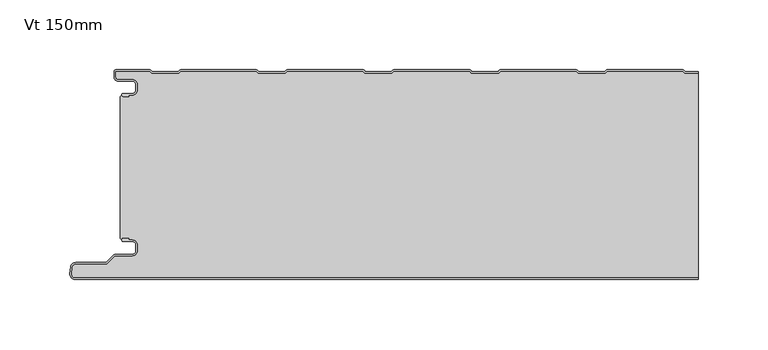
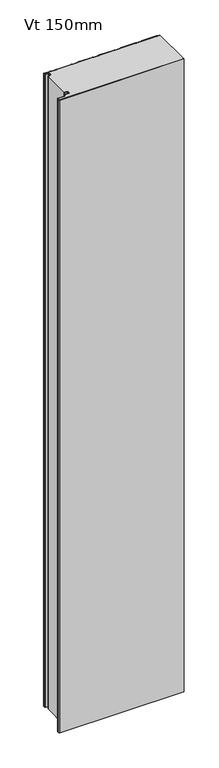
"""IFC4 building model written with IfcOpenShell, lengths in millimetres: plate geometry, KIP-MEX-KSS-1067-R19-CP-Vt-OP_SL : Vt 150mm."""

from ifc_helpers import new_model, si_unit, point, frame, frame_2d, origin, origin_with_axes, place, context, project, spatial, polyline, circle_curve, trimmed, segment, composite_curve, outline, extrude, source, transform, mapped, element, save
from ifc_brep_helpers import plane_surface, cylinder_surface, revolved_surface, advanced_brep


def vt_150mm_fdf00c52(model_context):
    return source(origin(), model_context, "Body", "SolidModel", [
        advanced_brep(
        [(-204.468691, -17.0015159, 2400.0), (-205.4686883, -18.0015191, 2400.0), (-204.468691, -19.0015105, 2400.0), (-200.4684874, -19.0015105, 2400.0), (-200.4684874, -18.0015159, 2400.0), (-197.7762776, -18.0015159, 2400.0), (-194.4762819, -14.7015202, 2400.0), (-194.4762819, -10.301529, 2400.0), (-197.7762774, -7.0015335, 2400.0), (-208.1962563, -7.0015335, 2400.0), (-209.9662505, -5.2315393, 2400.0), (-209.9662505, -0.9999916, 2400.0), (-185.4659738, -0.9999916, 2400.0), (-184.0803312, -2.2002307, 2400.0), (-164.7051649, -2.2002307, 2400.0), (-163.319532, -1.0, 2400.0), (-109.2661166, -1.0, 2400.0), (-107.8804836, -2.2002307, 2400.0), (-88.5053173, -2.2002307, 2400.0), (-87.1196844, -1.0, 2400.0), (-33.066269, -1.0, 2400.0), (-31.680636, -2.2002307, 2400.0), (-12.3054697, -2.2002307, 2400.0), (-10.9198368, -1.0, 2400.0), (43.1335786, -1.0, 2400.0), (44.5192116, -2.2002307, 2400.0), (63.8943779, -2.2002307, 2400.0), (65.2800108, -1.0, 2400.0), (119.3334262, -1.0, 2400.0), (120.7190592, -2.2002307, 2400.0), (140.0942255, -2.2002307, 2400.0), (141.4798584, -1.0, 2400.0), (195.5332738, -1.0, 2400.0), (196.9189068, -2.2002307, 2400.0), (206.4999998, -2.2002307, 2400.0), (206.4999998, -1.2002307, 2400.0), (197.2917872, -1.2002307, 2400.0), (196.3007396, -0.3417885, 2400.0), (195.3841227, 0.0, 2400.0), (141.6290096, 0.0, 2400.0), (140.7123927, -0.3417885, 2400.0), (139.7213451, -1.2002307, 2400.0), (121.0919396, -1.2002307, 2400.0), (120.100892, -0.3417885, 2400.0), (119.1842751, 0.0, 2400.0), (65.429162, 0.0, 2400.0), (64.5125451, -0.3417885, 2400.0), (63.5214975, -1.2002307, 2400.0), (44.892092, -1.2002307, 2400.0), (43.9010444, -0.3417885, 2400.0), (42.9844275, 0.0, 2400.0), (-10.7706856, 0.0, 2400.0), (-11.6873025, -0.3417885, 2400.0), (-12.6783501, -1.2002307, 2400.0), (-31.3077556, -1.2002307, 2400.0), (-32.2988032, -0.3417885, 2400.0), (-33.2154201, 0.0, 2400.0), (-86.9705332, 0.0, 2400.0), (-87.8871501, -0.3417885, 2400.0), (-88.8781977, -1.2002307, 2400.0), (-107.5076032, -1.2002307, 2400.0), (-108.4986508, -0.3417885, 2400.0), (-109.4152677, 0.0, 2400.0), (-163.1703808, 0.0, 2400.0), (-164.0869977, -0.3417885, 2400.0), (-165.0780453, -1.2002307, 2400.0), (-183.7074508, -1.2002307, 2400.0), (-184.6984984, -0.3417885, 2400.0), (-185.6152067, 0.0, 2400.0), (-209.5662543, 8.4e-06, 2400.0), (-210.9662505, -1.3999878, 2400.0), (-210.9662505, -5.2315393, 2400.0), (-208.1962563, -8.0015335, 2400.0), (-197.7762774, -8.0015335, 2400.0), (-195.4762819, -10.301529, 2400.0), (-195.4762819, -14.7015202, 2400.0), (-197.7762776, -17.0015159, 2400.0), (-204.468691, -17.0015159, 0.0), (-197.7762776, -17.0015159, 0.0), (-195.4762819, -14.7015202, 0.0), (-195.4762819, -10.301529, 0.0), (-197.7762774, -8.0015335, 0.0), (-208.1962563, -8.0015335, 0.0), (-210.9662505, -5.2315393, 0.0), (-210.9662505, -1.3999878, 0.0), (-209.5662543, 8.4e-06, 0.0), (-185.6151153, 8.4e-06, 0.0), (-184.6984984, -0.3417885, 0.0), (-183.7074508, -1.2002307, 0.0), (-165.0780453, -1.2002307, 0.0), (-164.0869977, -0.3417885, 0.0), (-163.1703808, 0.0, 0.0), (-109.4152677, 0.0, 0.0), (-108.4986508, -0.3417885, 0.0), (-107.5076032, -1.2002307, 0.0), (-88.8781977, -1.2002307, 0.0), (-87.8871501, -0.3417885, 0.0), (-86.9705332, 0.0, 0.0), (-33.2154201, 0.0, 0.0), (-32.2988032, -0.3417885, 0.0), (-31.3077556, -1.2002307, 0.0), (-12.6783501, -1.2002307, 0.0), (-11.6873025, -0.3417885, 0.0), (-10.7706856, 0.0, 0.0), (42.9844275, 0.0, 0.0), (43.9010444, -0.3417885, 0.0), (44.892092, -1.2002307, 0.0), (63.5214975, -1.2002307, 0.0), (64.5125451, -0.3417885, 0.0), (65.429162, 0.0, 0.0), (119.1842751, 0.0, 0.0), (120.100892, -0.3417885, 0.0), (121.0919396, -1.2002307, 0.0), (139.7213451, -1.2002307, 0.0), (140.7123927, -0.3417885, 0.0), (141.6290096, 0.0, 0.0), (195.3841227, 0.0, 0.0), (196.3007396, -0.3417885, 0.0), (197.2917872, -1.2002307, 0.0), (206.4999998, -1.2002307, 0.0), (206.4999998, -2.2002307, 0.0), (196.9189068, -2.2002307, 0.0), (195.5332738, -1.0, 0.0), (141.4798584, -1.0, 0.0), (140.0942255, -2.2002307, 0.0), (120.7190592, -2.2002307, 0.0), (119.3334262, -1.0, 0.0), (65.2800108, -1.0, 0.0), (63.8943779, -2.2002307, 0.0), (44.5192116, -2.2002307, 0.0), (43.1335786, -1.0, 0.0), (-10.9198368, -1.0, 0.0), (-12.3054697, -2.2002307, 0.0), (-31.680636, -2.2002307, 0.0), (-33.066269, -1.0, 0.0), (-87.1196844, -1.0, 0.0), (-88.5053173, -2.2002307, 0.0), (-107.8804836, -2.2002307, 0.0), (-109.2661166, -1.0, 0.0), (-163.319532, -1.0, 0.0), (-164.7051649, -2.2002307, 0.0), (-184.0803312, -2.2002307, 0.0), (-185.4659738, -0.9999916, 0.0), (-209.9662505, -0.9999916, 0.0), (-209.9662505, -5.2315393, 0.0), (-208.1962563, -7.0015335, 0.0), (-197.7762774, -7.0015335, 0.0), (-194.4762819, -10.301529, 0.0), (-194.4762819, -14.7015202, 0.0), (-197.7762776, -18.0015159, 0.0), (-200.4684874, -18.0015159, 0.0), (-200.4684874, -19.0015105, 0.0), (-204.468691, -19.0015105, 0.0), (-205.4686882, -18.0015192, 0.0)],
        [
            (0, 1, circle_curve(frame((-204.468691, -18.0015132, 2400.0), z_axis=(0.0, 0.0, 1.0), x_axis=(1.0, 0.0, 0.0)), 0.9999973)),
            (1, 2, circle_curve(frame((-204.468691, -18.0015133, 2400.0), z_axis=(0.0, 0.0, 1.0), x_axis=(1.0, 0.0, 0.0)), 0.9999972)),
            (2, 3),
            (3, 4),
            (4, 5),
            (5, 6, circle_curve(frame((-197.7762776, -14.7015202, 2400.0), z_axis=(0.0, 0.0, 1.0), x_axis=(1.0, 0.0, 0.0)), 3.2999957)),
            (6, 7),
            (7, 8, circle_curve(frame((-197.7762774, -10.301529, 2400.0), z_axis=(0.0, 0.0, 1.0), x_axis=(1.0, 0.0, 0.0)), 3.2999955)),
            (8, 9),
            (9, 10, circle_curve(frame((-208.1962563, -5.2315393, 2400.0), z_axis=(0.0, 0.0, -1.0), x_axis=(1.0, 0.0, 0.0)), 1.7699942)),
            (10, 11),
            (11, 12),
            (12, 13),
            (13, 14),
            (14, 15),
            (15, 16),
            (16, 17),
            (17, 18),
            (18, 19),
            (19, 20),
            (20, 21),
            (21, 22),
            (22, 23),
            (23, 24),
            (24, 25),
            (25, 26),
            (26, 27),
            (27, 28),
            (28, 29),
            (29, 30),
            (30, 31),
            (31, 32),
            (32, 33),
            (33, 34),
            (34, 35),
            (35, 36),
            (36, 37),
            (37, 38, circle_curve(frame((195.3841227, -1.3999972, 2400.0), z_axis=(0.0, 0.0, 1.0), x_axis=(1.0, 0.0, 0.0)), 1.3999972)),
            (38, 39),
            (39, 40, circle_curve(frame((141.6290096, -1.3999972, 2400.0), z_axis=(0.0, 0.0, 1.0), x_axis=(1.0, 0.0, 0.0)), 1.3999972)),
            (40, 41),
            (41, 42),
            (42, 43),
            (43, 44, circle_curve(frame((119.1842751, -1.3999972, 2400.0), z_axis=(0.0, 0.0, 1.0), x_axis=(1.0, 0.0, 0.0)), 1.3999972)),
            (44, 45),
            (45, 46, circle_curve(frame((65.429162, -1.3999972, 2400.0), z_axis=(0.0, 0.0, 1.0), x_axis=(1.0, 0.0, 0.0)), 1.3999972)),
            (46, 47),
            (47, 48),
            (48, 49),
            (49, 50, circle_curve(frame((42.9844275, -1.3999972, 2400.0), z_axis=(0.0, 0.0, 1.0), x_axis=(1.0, 0.0, 0.0)), 1.3999972)),
            (50, 51),
            (51, 52, circle_curve(frame((-10.7706856, -1.3999972, 2400.0), z_axis=(0.0, 0.0, 1.0), x_axis=(1.0, 0.0, 0.0)), 1.3999972)),
            (52, 53),
            (53, 54),
            (54, 55),
            (55, 56, circle_curve(frame((-33.2154201, -1.3999972, 2400.0), z_axis=(0.0, 0.0, 1.0), x_axis=(1.0, 0.0, 0.0)), 1.3999972)),
            (56, 57),
            (57, 58, circle_curve(frame((-86.9705332, -1.3999972, 2400.0), z_axis=(0.0, 0.0, 1.0), x_axis=(1.0, 0.0, 0.0)), 1.3999972)),
            (58, 59),
            (59, 60),
            (60, 61),
            (61, 62, circle_curve(frame((-109.4152677, -1.3999972, 2400.0), z_axis=(0.0, 0.0, 1.0), x_axis=(1.0, 0.0, 0.0)), 1.3999972)),
            (62, 63),
            (63, 64, circle_curve(frame((-163.1703808, -1.3999972, 2400.0), z_axis=(0.0, 0.0, 1.0), x_axis=(1.0, 0.0, 0.0)), 1.3999972)),
            (64, 65),
            (65, 66),
            (66, 67),
            (67, 68, circle_curve(frame((-185.6151153, -1.3999972, 2400.0), z_axis=(0.0, 0.0, 1.0), x_axis=(1.0, 0.0, 0.0)), 1.3999972)),
            (68, 69),
            (69, 70, circle_curve(frame((-209.5662543, -1.3999878, 2400.0), z_axis=(0.0, 0.0, 1.0), x_axis=(1.0, 0.0, 0.0)), 1.3999962)),
            (70, 71),
            (71, 72, circle_curve(frame((-208.1962563, -5.2315393, 2400.0), z_axis=(0.0, 0.0, 1.0), x_axis=(1.0, 0.0, 0.0)), 2.7699942)),
            (72, 73),
            (73, 74, circle_curve(frame((-197.7762774, -10.301529, 2400.0), z_axis=(0.0, 0.0, -1.0), x_axis=(1.0, 0.0, 0.0)), 2.2999955)),
            (74, 75),
            (75, 76, circle_curve(frame((-197.7762776, -14.7015202, 2400.0), z_axis=(0.0, 0.0, -1.0), x_axis=(1.0, 0.0, 0.0)), 2.2999957)),
            (76, 0),
            (77, 78),
            (78, 79, circle_curve(frame((-197.7762776, -14.7015202, 0.0), z_axis=(0.0, 0.0, 1.0), x_axis=(1.0, 0.0, 0.0)), 2.2999957)),
            (79, 80),
            (80, 81, circle_curve(frame((-197.7762774, -10.301529, 0.0), z_axis=(0.0, 0.0, 1.0), x_axis=(1.0, 0.0, 0.0)), 2.2999955)),
            (81, 82),
            (82, 83, circle_curve(frame((-208.1962563, -5.2315393, 0.0), z_axis=(0.0, 0.0, -1.0), x_axis=(1.0, 0.0, 0.0)), 2.7699942)),
            (83, 84),
            (84, 85, circle_curve(frame((-209.5662543, -1.3999878, 0.0), z_axis=(0.0, 0.0, -1.0), x_axis=(1.0, 0.0, 0.0)), 1.3999962)),
            (85, 86),
            (86, 87, circle_curve(frame((-185.6151153, -1.3999972, 0.0), z_axis=(0.0, 0.0, -1.0), x_axis=(1.0, 0.0, 0.0)), 1.3999972)),
            (87, 88),
            (88, 89),
            (89, 90),
            (90, 91, circle_curve(frame((-163.1703808, -1.3999972, 0.0), z_axis=(0.0, 0.0, -1.0), x_axis=(1.0, 0.0, 0.0)), 1.3999972)),
            (91, 92),
            (92, 93, circle_curve(frame((-109.4152677, -1.3999972, 0.0), z_axis=(0.0, 0.0, -1.0), x_axis=(1.0, 0.0, 0.0)), 1.3999972)),
            (93, 94),
            (94, 95),
            (95, 96),
            (96, 97, circle_curve(frame((-86.9705332, -1.3999972, 0.0), z_axis=(0.0, 0.0, -1.0), x_axis=(1.0, 0.0, 0.0)), 1.3999972)),
            (97, 98),
            (98, 99, circle_curve(frame((-33.2154201, -1.3999972, 0.0), z_axis=(0.0, 0.0, -1.0), x_axis=(1.0, 0.0, 0.0)), 1.3999972)),
            (99, 100),
            (100, 101),
            (101, 102),
            (102, 103, circle_curve(frame((-10.7706856, -1.3999972, 0.0), z_axis=(0.0, 0.0, -1.0), x_axis=(1.0, 0.0, 0.0)), 1.3999972)),
            (103, 104),
            (104, 105, circle_curve(frame((42.9844275, -1.3999972, 0.0), z_axis=(0.0, 0.0, -1.0), x_axis=(1.0, 0.0, 0.0)), 1.3999972)),
            (105, 106),
            (106, 107),
            (107, 108),
            (108, 109, circle_curve(frame((65.429162, -1.3999972, 0.0), z_axis=(0.0, 0.0, -1.0), x_axis=(1.0, 0.0, 0.0)), 1.3999972)),
            (109, 110),
            (110, 111, circle_curve(frame((119.1842751, -1.3999972, 0.0), z_axis=(0.0, 0.0, -1.0), x_axis=(1.0, 0.0, 0.0)), 1.3999972)),
            (111, 112),
            (112, 113),
            (113, 114),
            (114, 115, circle_curve(frame((141.6290096, -1.3999972, 0.0), z_axis=(0.0, 0.0, -1.0), x_axis=(1.0, 0.0, 0.0)), 1.3999972)),
            (115, 116),
            (116, 117, circle_curve(frame((195.3841227, -1.3999972, 0.0), z_axis=(0.0, 0.0, -1.0), x_axis=(1.0, 0.0, 0.0)), 1.3999972)),
            (117, 118),
            (118, 119),
            (119, 120),
            (120, 121),
            (121, 122),
            (122, 123),
            (123, 124),
            (124, 125),
            (125, 126),
            (126, 127),
            (127, 128),
            (128, 129),
            (129, 130),
            (130, 131),
            (131, 132),
            (132, 133),
            (133, 134),
            (134, 135),
            (135, 136),
            (136, 137),
            (137, 138),
            (138, 139),
            (139, 140),
            (140, 141),
            (141, 142),
            (142, 143),
            (143, 144),
            (144, 145, circle_curve(frame((-208.1962563, -5.2315393, 0.0), z_axis=(0.0, 0.0, 1.0), x_axis=(1.0, 0.0, 0.0)), 1.7699942)),
            (145, 146),
            (146, 147, circle_curve(frame((-197.7762774, -10.301529, 0.0), z_axis=(0.0, 0.0, -1.0), x_axis=(1.0, 0.0, 0.0)), 3.2999955)),
            (147, 148),
            (148, 149, circle_curve(frame((-197.7762776, -14.7015202, 0.0), z_axis=(0.0, 0.0, -1.0), x_axis=(1.0, 0.0, 0.0)), 3.2999957)),
            (149, 150),
            (150, 151),
            (151, 152),
            (152, 153, circle_curve(frame((-204.468691, -18.0015133, 0.0), z_axis=(0.0, 0.0, -1.0), x_axis=(1.0, 0.0, 0.0)), 0.9999972)),
            (153, 77, circle_curve(frame((-204.468691, -18.0015132, 0.0), z_axis=(0.0, 0.0, -1.0), x_axis=(1.0, 0.0, 0.0)), 0.9999973)),
            (76, 78),
            (77, 0),
            (75, 79),
            (74, 80),
            (73, 81),
            (72, 82),
            (71, 83),
            (70, 84),
            (69, 85),
            (68, 86),
            (67, 87),
            (66, 88),
            (65, 89),
            (64, 90),
            (63, 91),
            (62, 92),
            (61, 93),
            (60, 94),
            (59, 95),
            (58, 96),
            (57, 97),
            (56, 98),
            (55, 99),
            (54, 100),
            (53, 101),
            (52, 102),
            (51, 103),
            (50, 104),
            (49, 105),
            (48, 106),
            (47, 107),
            (46, 108),
            (45, 109),
            (44, 110),
            (43, 111),
            (42, 112),
            (41, 113),
            (40, 114),
            (39, 115),
            (38, 116),
            (37, 117),
            (36, 118),
            (35, 119),
            (120, 34),
            (33, 121),
            (32, 122),
            (31, 123),
            (30, 124),
            (29, 125),
            (28, 126),
            (27, 127),
            (26, 128),
            (25, 129),
            (24, 130),
            (23, 131),
            (22, 132),
            (21, 133),
            (20, 134),
            (19, 135),
            (18, 136),
            (17, 137),
            (16, 138),
            (15, 139),
            (14, 140),
            (13, 141),
            (12, 142),
            (11, 143),
            (10, 144),
            (9, 145),
            (8, 146),
            (7, 147),
            (6, 148),
            (5, 149),
            (4, 150),
            (3, 151),
            (2, 152),
            (1, 153),
        ],
        [
            plane_surface(frame((326.9000002, 0.0, 2400.0), z_axis=(0.0, 0.0, 1.0), x_axis=(0.0, 1.0, 0.0))),
            plane_surface(frame((326.9000002, 0.0, 0.0), z_axis=(0.0, 0.0, -1.0), x_axis=(0.0, 1.0, 0.0))),
            plane_surface(frame((-204.468691, -17.0015159, 2400.0), z_axis=(0.0, 1.0, 0.0), x_axis=(0.0, 0.0, -1.0))),
            revolved_surface(polyline([(-195.47628189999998, -14.7015202, 0.0), (-195.47628189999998, -14.7015202, 2400.0)]), (-197.7762776, -14.7015202, 2400.0), (0.0, 0.0, -1.0)),
            plane_surface(frame((-195.4762819, -14.7015202, 2400.0), z_axis=(-1.0, 0.0, 0.0), x_axis=(0.0, 0.0, -1.0))),
            revolved_surface(polyline([(-195.4762819, -10.301529, 0.0), (-195.4762819, -10.301529, 2400.0)]), (-197.7762774, -10.301529, 2400.0), (0.0, 0.0, -1.0)),
            plane_surface(frame((-197.7762774, -8.0015335, 2400.0), z_axis=(0.0, -1.0, 0.0), x_axis=(0.0, 0.0, -1.0))),
            cylinder_surface(frame((-208.1962563, -5.2315393, 2400.0), z_axis=(0.0, 0.0, 1.0), x_axis=(1.0, 0.0, 0.0)), 2.7699942),
            plane_surface(frame((-210.9662505, -5.2315393, 2400.0), z_axis=(-1.0, 0.0, 0.0), x_axis=(0.0, 0.0, -1.0))),
            cylinder_surface(frame((-209.5662543, -1.3999878, 2400.0), z_axis=(0.0, 0.0, 1.0), x_axis=(1.0, 0.0, 0.0)), 1.3999962),
            plane_surface(frame((-209.5662543, 8.4e-06, 2400.0), z_axis=(0.0, 1.0, 0.0), x_axis=(0.0, 0.0, -1.0))),
            cylinder_surface(frame((-185.6151153, -1.3999972, 2400.0), z_axis=(0.0, 0.0, 1.0), x_axis=(1.0, 0.0, 0.0)), 1.3999972),
            plane_surface(frame((-184.6984984, -0.3417885, 2400.0), z_axis=(0.6547276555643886, 0.755864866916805, 0.0), x_axis=(0.0, 0.0, -1.0))),
            plane_surface(frame((-174.3927481, -1.2002307, 2400.0), z_axis=(0.0, 1.0, 0.0), x_axis=(0.0, 0.0, -1.0))),
            plane_surface(frame((-165.0780453, -1.2002307, 2400.0), z_axis=(-0.6547276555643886, 0.755864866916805, 0.0), x_axis=(0.0, 0.0, -1.0))),
            cylinder_surface(frame((-163.1703808, -1.3999972, 2400.0), z_axis=(0.0, 0.0, 1.0), x_axis=(1.0, 0.0, 0.0)), 1.3999972),
            plane_surface(frame((-163.1703808, 0.0, 2400.0), z_axis=(0.0, 1.0, 0.0), x_axis=(0.0, 0.0, -1.0))),
            cylinder_surface(frame((-109.4152677, -1.3999972, 2400.0), z_axis=(0.0, 0.0, 1.0), x_axis=(1.0, 0.0, 0.0)), 1.3999972),
            plane_surface(frame((-108.4986508, -0.3417885, 2400.0), z_axis=(0.6547276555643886, 0.755864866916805, 0.0), x_axis=(0.0, 0.0, -1.0))),
            plane_surface(frame((-98.1929005, -1.2002307, 2400.0), z_axis=(0.0, 1.0, 0.0), x_axis=(0.0, 0.0, -1.0))),
            plane_surface(frame((-88.8781977, -1.2002307, 2400.0), z_axis=(-0.6547276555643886, 0.755864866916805, 0.0), x_axis=(0.0, 0.0, -1.0))),
            cylinder_surface(frame((-86.9705332, -1.3999972, 2400.0), z_axis=(0.0, 0.0, 1.0), x_axis=(1.0, 0.0, 0.0)), 1.3999972),
            plane_surface(frame((-86.9705332, 0.0, 2400.0), z_axis=(0.0, 1.0, 0.0), x_axis=(0.0, 0.0, -1.0))),
            cylinder_surface(frame((-33.2154201, -1.3999972, 2400.0), z_axis=(0.0, 0.0, 1.0), x_axis=(1.0, 0.0, 0.0)), 1.3999972),
            plane_surface(frame((-32.2988032, -0.3417885, 2400.0), z_axis=(0.6547276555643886, 0.755864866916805, 0.0), x_axis=(0.0, 0.0, -1.0))),
            plane_surface(frame((-21.9930529, -1.2002307, 2400.0), z_axis=(0.0, 1.0, 0.0), x_axis=(0.0, 0.0, -1.0))),
            plane_surface(frame((-12.6783501, -1.2002307, 2400.0), z_axis=(-0.6547276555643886, 0.755864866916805, 0.0), x_axis=(0.0, 0.0, -1.0))),
            cylinder_surface(frame((-10.7706856, -1.3999972, 2400.0), z_axis=(0.0, 0.0, 1.0), x_axis=(1.0, 0.0, 0.0)), 1.3999972),
            plane_surface(frame((-10.7706856, 0.0, 2400.0), z_axis=(0.0, 1.0, 0.0), x_axis=(0.0, 0.0, -1.0))),
            cylinder_surface(frame((42.9844275, -1.3999972, 2400.0), z_axis=(0.0, 0.0, 1.0), x_axis=(1.0, 0.0, 0.0)), 1.3999972),
            plane_surface(frame((43.9010444, -0.3417885, 2400.0), z_axis=(0.6547276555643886, 0.755864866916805, 0.0), x_axis=(0.0, 0.0, -1.0))),
            plane_surface(frame((54.2067947, -1.2002307, 2400.0), z_axis=(0.0, 1.0, 0.0), x_axis=(0.0, 0.0, -1.0))),
            plane_surface(frame((63.5214975, -1.2002307, 2400.0), z_axis=(-0.6547276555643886, 0.755864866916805, 0.0), x_axis=(0.0, 0.0, -1.0))),
            cylinder_surface(frame((65.429162, -1.3999972, 2400.0), z_axis=(0.0, 0.0, 1.0), x_axis=(1.0, 0.0, 0.0)), 1.3999972),
            plane_surface(frame((65.429162, 0.0, 2400.0), z_axis=(0.0, 1.0, 0.0), x_axis=(0.0, 0.0, -1.0))),
            cylinder_surface(frame((119.1842751, -1.3999972, 2400.0), z_axis=(0.0, 0.0, 1.0), x_axis=(1.0, 0.0, 0.0)), 1.3999972),
            plane_surface(frame((120.100892, -0.3417885, 2400.0), z_axis=(0.6547276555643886, 0.755864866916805, 0.0), x_axis=(0.0, 0.0, -1.0))),
            plane_surface(frame((130.4066423, -1.2002307, 2400.0), z_axis=(0.0, 1.0, 0.0), x_axis=(0.0, 0.0, -1.0))),
            plane_surface(frame((139.7213451, -1.2002307, 2400.0), z_axis=(-0.6547276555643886, 0.755864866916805, 0.0), x_axis=(0.0, 0.0, -1.0))),
            cylinder_surface(frame((141.6290096, -1.3999972, 2400.0), z_axis=(0.0, 0.0, 1.0), x_axis=(1.0, 0.0, 0.0)), 1.3999972),
            plane_surface(frame((141.6290096, 0.0, 2400.0), z_axis=(0.0, 1.0, 0.0), x_axis=(0.0, 0.0, -1.0))),
            cylinder_surface(frame((195.3841227, -1.3999972, 2400.0), z_axis=(0.0, 0.0, 1.0), x_axis=(1.0, 0.0, 0.0)), 1.3999972),
            plane_surface(frame((196.3007396, -0.3417885, 2400.0), z_axis=(0.6547276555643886, 0.755864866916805, 0.0), x_axis=(0.0, 0.0, -1.0))),
            plane_surface(frame((206.6064899, -1.2002307, 2400.0), z_axis=(0.0, 1.0, 0.0), x_axis=(0.0, 0.0, -1.0))),
            plane_surface(frame((216.2940731, -2.2002307, 2400.0), z_axis=(0.0, -1.0, 0.0), x_axis=(0.0, 0.0, -1.0))),
            plane_surface(frame((196.9189068, -2.2002307, 2400.0), z_axis=(-0.6547276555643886, -0.755864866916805, 0.0), x_axis=(0.0, 0.0, -1.0))),
            plane_surface(frame((195.5332738, -1.0, 2400.0), z_axis=(0.0, -1.0, 0.0), x_axis=(0.0, 0.0, -1.0))),
            plane_surface(frame((141.4798584, -1.0, 2400.0), z_axis=(0.6547276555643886, -0.755864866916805, 0.0), x_axis=(0.0, 0.0, -1.0))),
            plane_surface(frame((140.0942255, -2.2002307, 2400.0), z_axis=(0.0, -1.0, 0.0), x_axis=(0.0, 0.0, -1.0))),
            plane_surface(frame((120.7190592, -2.2002307, 2400.0), z_axis=(-0.6547276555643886, -0.755864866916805, 0.0), x_axis=(0.0, 0.0, -1.0))),
            plane_surface(frame((119.3334262, -1.0, 2400.0), z_axis=(0.0, -1.0, 0.0), x_axis=(0.0, 0.0, -1.0))),
            plane_surface(frame((65.2800108, -1.0, 2400.0), z_axis=(0.6547276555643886, -0.755864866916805, 0.0), x_axis=(0.0, 0.0, -1.0))),
            plane_surface(frame((63.8943779, -2.2002307, 2400.0), z_axis=(0.0, -1.0, 0.0), x_axis=(0.0, 0.0, -1.0))),
            plane_surface(frame((44.5192116, -2.2002307, 2400.0), z_axis=(-0.6547276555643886, -0.755864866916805, 0.0), x_axis=(0.0, 0.0, -1.0))),
            plane_surface(frame((43.1335786, -1.0, 2400.0), z_axis=(0.0, -1.0, 0.0), x_axis=(0.0, 0.0, -1.0))),
            plane_surface(frame((-10.9198368, -1.0, 2400.0), z_axis=(0.6547276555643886, -0.755864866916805, 0.0), x_axis=(0.0, 0.0, -1.0))),
            plane_surface(frame((-12.3054697, -2.2002307, 2400.0), z_axis=(0.0, -1.0, 0.0), x_axis=(0.0, 0.0, -1.0))),
            plane_surface(frame((-31.680636, -2.2002307, 2400.0), z_axis=(-0.6547276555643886, -0.755864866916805, 0.0), x_axis=(0.0, 0.0, -1.0))),
            plane_surface(frame((-33.066269, -1.0, 2400.0), z_axis=(0.0, -1.0, 0.0), x_axis=(0.0, 0.0, -1.0))),
            plane_surface(frame((-87.1196844, -1.0, 2400.0), z_axis=(0.6547276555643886, -0.755864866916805, 0.0), x_axis=(0.0, 0.0, -1.0))),
            plane_surface(frame((-88.5053173, -2.2002307, 2400.0), z_axis=(0.0, -1.0, 0.0), x_axis=(0.0, 0.0, -1.0))),
            plane_surface(frame((-107.8804836, -2.2002307, 2400.0), z_axis=(-0.6547276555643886, -0.755864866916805, 0.0), x_axis=(0.0, 0.0, -1.0))),
            plane_surface(frame((-109.2661166, -1.0, 2400.0), z_axis=(0.0, -1.0, 0.0), x_axis=(0.0, 0.0, -1.0))),
            plane_surface(frame((-163.319532, -1.0, 2400.0), z_axis=(0.6547276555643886, -0.755864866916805, 0.0), x_axis=(0.0, 0.0, -1.0))),
            plane_surface(frame((-164.7051649, -2.2002307, 2400.0), z_axis=(0.0, -1.0, 0.0), x_axis=(0.0, 0.0, -1.0))),
            plane_surface(frame((-184.0803312, -2.2002307, 2400.0), z_axis=(-0.6547276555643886, -0.755864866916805, 0.0), x_axis=(0.0, 0.0, -1.0))),
            plane_surface(frame((-185.4659738, -0.9999916, 2400.0), z_axis=(0.0, -1.0, 0.0), x_axis=(0.0, 0.0, -1.0))),
            plane_surface(frame((-209.9662505, -0.9999916, 2400.0), z_axis=(1.0, 0.0, 0.0), x_axis=(0.0, 0.0, -1.0))),
            revolved_surface(polyline([(-206.42626209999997, -5.2315393, 0.0), (-206.42626209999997, -5.2315393, 2400.0)]), (-208.1962563, -5.2315393, 2400.0), (0.0, 0.0, -1.0)),
            plane_surface(frame((-208.1962563, -7.0015335, 2400.0), z_axis=(0.0, 1.0, 0.0), x_axis=(0.0, 0.0, -1.0))),
            cylinder_surface(frame((-197.7762774, -10.301529, 2400.0), z_axis=(0.0, 0.0, 1.0), x_axis=(1.0, 0.0, 0.0)), 3.2999955),
            plane_surface(frame((-194.4762819, -10.301529, 2400.0), z_axis=(1.0, 0.0, 0.0), x_axis=(0.0, 0.0, -1.0))),
            cylinder_surface(frame((-197.7762776, -14.7015202, 2400.0), z_axis=(0.0, 0.0, 1.0), x_axis=(1.0, 0.0, 0.0)), 3.2999957),
            plane_surface(frame((-197.7762776, -18.0015159, 2400.0), z_axis=(0.0, -1.0, 0.0), x_axis=(0.0, 0.0, -1.0))),
            plane_surface(frame((-200.4684874, -18.0015159, 2400.0), z_axis=(1.0, 0.0, 0.0), x_axis=(0.0, 0.0, -1.0))),
            plane_surface(frame((-200.4684874, -19.0015105, 2400.0), z_axis=(0.0, -1.0, 0.0), x_axis=(0.0, 0.0, -1.0))),
            cylinder_surface(frame((-204.468691, -18.0015133, 2400.0), z_axis=(0.0, 0.0, 1.0), x_axis=(1.0, 0.0, 0.0)), 0.9999972),
            cylinder_surface(frame((-204.468691, -18.0015132, 2400.0), z_axis=(0.0, 0.0, 1.0), x_axis=(1.0, 0.0, 0.0)), 0.9999973),
            plane_surface(frame((206.4999998, -160.0, 2400.0), z_axis=(1.0, 0.0, 0.0), x_axis=(0.0, 0.0, -1.0))),
        ],
        [
            (0, [[1, 2, 3, 4, 5, 6, 7, 8, 9, 10, 11, 12, 13, 14, 15, 16, 17, 18, 19, 20, 21, 22, 23, 24, 25, 26, 27, 28, 29, 30, 31, 32, 33, 34, 35, 36, 37, 38, 39, 40, 41, 42, 43, 44, 45, 46, 47, 48, 49, 50, 51, 52, 53, 54, 55, 56, 57, 58, 59, 60, 61, 62, 63, 64, 65, 66, 67, 68, 69, 70, 71, 72, 73, 74, 75, 76, 77]]),
            (1, [[78, 79, 80, 81, 82, 83, 84, 85, 86, 87, 88, 89, 90, 91, 92, 93, 94, 95, 96, 97, 98, 99, 100, 101, 102, 103, 104, 105, 106, 107, 108, 109, 110, 111, 112, 113, 114, 115, 116, 117, 118, 119, 120, 121, 122, 123, 124, 125, 126, 127, 128, 129, 130, 131, 132, 133, 134, 135, 136, 137, 138, 139, 140, 141, 142, 143, 144, 145, 146, 147, 148, 149, 150, 151, 152, 153, 154]]),
            (2, [[155, -78, 156, -77]]),
            (3, [[157, -79, -155, -76]]),
            (4, [[158, -80, -157, -75]]),
            (5, [[159, -81, -158, -74]]),
            (6, [[160, -82, -159, -73]]),
            (7, [[161, -83, -160, -72]]),
            (8, [[162, -84, -161, -71]]),
            (9, [[163, -85, -162, -70]]),
            (10, [[164, -86, -163, -69]]),
            (11, [[165, -87, -164, -68]]),
            (12, [[166, -88, -165, -67]]),
            (13, [[167, -89, -166, -66]]),
            (14, [[168, -90, -167, -65]]),
            (15, [[169, -91, -168, -64]]),
            (16, [[170, -92, -169, -63]]),
            (17, [[171, -93, -170, -62]]),
            (18, [[172, -94, -171, -61]]),
            (19, [[173, -95, -172, -60]]),
            (20, [[174, -96, -173, -59]]),
            (21, [[175, -97, -174, -58]]),
            (22, [[176, -98, -175, -57]]),
            (23, [[177, -99, -176, -56]]),
            (24, [[178, -100, -177, -55]]),
            (25, [[179, -101, -178, -54]]),
            (26, [[180, -102, -179, -53]]),
            (27, [[181, -103, -180, -52]]),
            (28, [[182, -104, -181, -51]]),
            (29, [[183, -105, -182, -50]]),
            (30, [[184, -106, -183, -49]]),
            (31, [[185, -107, -184, -48]]),
            (32, [[186, -108, -185, -47]]),
            (33, [[187, -109, -186, -46]]),
            (34, [[188, -110, -187, -45]]),
            (35, [[189, -111, -188, -44]]),
            (36, [[190, -112, -189, -43]]),
            (37, [[191, -113, -190, -42]]),
            (38, [[192, -114, -191, -41]]),
            (39, [[193, -115, -192, -40]]),
            (40, [[194, -116, -193, -39]]),
            (41, [[195, -117, -194, -38]]),
            (42, [[196, -118, -195, -37]]),
            (43, [[-36, 197, -119, -196]]),
            (44, [[-121, 198, -34, 199]]),
            (45, [[200, -122, -199, -33]]),
            (46, [[201, -123, -200, -32]]),
            (47, [[202, -124, -201, -31]]),
            (48, [[203, -125, -202, -30]]),
            (49, [[204, -126, -203, -29]]),
            (50, [[205, -127, -204, -28]]),
            (51, [[206, -128, -205, -27]]),
            (52, [[207, -129, -206, -26]]),
            (53, [[208, -130, -207, -25]]),
            (54, [[209, -131, -208, -24]]),
            (55, [[210, -132, -209, -23]]),
            (56, [[211, -133, -210, -22]]),
            (57, [[212, -134, -211, -21]]),
            (58, [[213, -135, -212, -20]]),
            (59, [[214, -136, -213, -19]]),
            (60, [[215, -137, -214, -18]]),
            (61, [[216, -138, -215, -17]]),
            (62, [[217, -139, -216, -16]]),
            (63, [[218, -140, -217, -15]]),
            (64, [[219, -141, -218, -14]]),
            (65, [[220, -142, -219, -13]]),
            (66, [[221, -143, -220, -12]]),
            (67, [[222, -144, -221, -11]]),
            (68, [[223, -145, -222, -10]]),
            (69, [[224, -146, -223, -9]]),
            (70, [[225, -147, -224, -8]]),
            (71, [[226, -148, -225, -7]]),
            (72, [[227, -149, -226, -6]]),
            (73, [[228, -150, -227, -5]]),
            (74, [[229, -151, -228, -4]]),
            (75, [[230, -152, -229, -3]]),
            (76, [[231, -153, -230, -2]]),
            (77, [[-156, -154, -231, -1]]),
            (78, [[-198, -120, -197, -35]]),
        ],
    ),
        extrude(outline(composite_curve([segment(polyline([(-242.5087619, -146.1184903), (-242.0690674, -141.0944437)]), True, "CONTINUOUS"), segment(trimmed(circle_curve(frame_2d((-238.4198391, -141.7052448)), 3.6999926), [point((-242.0690674, -141.0944437))], [point((-238.4198391, -138.0052522))], False, "CARTESIAN"), True, "CONTINUOUS"), segment(polyline([(-238.4198391, -138.0052522), (-217.2773995, -138.0052522)]), True, "CONTINUOUS"), segment(trimmed(circle_curve(frame_2d((-217.2773995, -136.7052548)), 1.2999974), [point((-217.2773995, -138.0052522))], [point((-216.3581626, -137.6244918))], True, "CARTESIAN"), True, "CONTINUOUS"), segment(polyline([(-216.3581626, -137.6244918), (-211.5297451, -132.7960743)]), True, "CONTINUOUS"), segment(trimmed(circle_curve(frame_2d((-209.6205606, -134.7052588)), 2.6999946), [point((-211.5297451, -132.7960743))], [point((-209.6205606, -132.0052642))], False, "CARTESIAN"), True, "CONTINUOUS"), segment(polyline([(-209.6205606, -132.0052642), (-197.8096715, -132.0052642)]), True, "CONTINUOUS"), segment(trimmed(circle_curve(frame_2d((-197.8096715, -129.6552689)), 2.3499953), [point((-197.8096715, -132.0052642))], [point((-195.4596762, -129.6552689))], True, "CARTESIAN"), True, "CONTINUOUS"), segment(polyline([(-195.4596762, -129.6552689), (-195.4596762, -125.2552777)]), True, "CONTINUOUS"), segment(trimmed(circle_curve(frame_2d((-197.8096715, -125.2552777)), 2.3499953), [point((-195.4596762, -125.2552777))], [point((-197.8096715, -122.9052824))], True, "CARTESIAN"), True, "CONTINUOUS"), segment(polyline([(-197.8096715, -122.9052824), (-204.3289777, -122.9052824)]), True, "CONTINUOUS"), segment(trimmed(circle_curve(frame_2d((-204.2686906, -121.7068002)), 1.1999976), [point((-204.3289777, -122.9052824))], [point((-205.4683, -121.6762782))], False, "CARTESIAN"), True, "CONTINUOUS"), segment(trimmed(circle_curve(frame_2d((-204.2686906, -121.7068002)), 1.1999976), [point((-205.4683, -121.6762782))], [point((-204.267176, -120.5068035))], False, "CARTESIAN"), True, "CONTINUOUS"), segment(polyline([(-204.267176, -120.5068035), (-200.5087826, -120.5068035), (-200.5087826, -121.9052824), (-197.8096715, -121.9052824)]), True, "CONTINUOUS"), segment(trimmed(circle_curve(frame_2d((-197.8096715, -125.2552777)), 3.3499953), [point((-197.8096715, -121.9052824))], [point((-194.4596762, -125.2552777))], False, "CARTESIAN"), True, "CONTINUOUS"), segment(polyline([(-194.4596762, -125.2552777), (-194.4596762, -129.6552689)]), True, "CONTINUOUS"), segment(trimmed(circle_curve(frame_2d((-197.8096715, -129.6552689)), 3.3499953), [point((-194.4596762, -129.6552689))], [point((-197.8096715, -133.0052642))], False, "CARTESIAN"), True, "CONTINUOUS"), segment(polyline([(-197.8096715, -133.0052642), (-209.6205606, -133.0052642)]), True, "CONTINUOUS"), segment(trimmed(circle_curve(frame_2d((-209.6205606, -134.7052588)), 1.6999946), [point((-209.6205606, -133.0052642))], [point((-210.8226383, -133.5031811))], True, "CARTESIAN"), True, "CONTINUOUS"), segment(polyline([(-210.8226383, -133.5031811), (-216.3247094, -139.0052522), (-238.4198391, -139.0052522)]), True, "CONTINUOUS"), segment(trimmed(circle_curve(frame_2d((-238.4198391, -141.7052448)), 2.6999926), [point((-238.4198391, -139.0052522))], [point((-241.0765707, -141.2238542))], True, "CARTESIAN"), True, "CONTINUOUS"), segment(polyline([(-241.0765707, -141.2238542), (-241.5125697, -146.2056751)]), True, "CONTINUOUS"), segment(trimmed(circle_curve(frame_2d((-238.9521175, -146.4297607)), 2.5702393), [point((-241.5125697, -146.2056751))], [point((-239.0094458, -148.9993606))], True, "CARTESIAN"), True, "CONTINUOUS"), segment(polyline([(-239.0094458, -148.9993606), (206.4999998, -148.9993606), (206.4999998, -150.0), (-238.9521175, -150.0)]), True, "CONTINUOUS"), segment(trimmed(circle_curve(frame_2d((-238.9521175, -146.4297607)), 3.5702393), [point((-238.9521175, -150.0))], [point((-242.5087619, -146.1184903))], False, "CARTESIAN"), True, "CONTINUOUS")], self_intersect=False)), origin_with_axes(), (0.0, 0.0, 1.0), 2400.0),
        advanced_brep(
        [(-205.4683, -121.670875, 2400.0), (-204.267176, -120.5014003, 2400.0), (-200.5087826, -120.5014003, 2400.0), (-200.5087826, -121.8998791, 2400.0), (-197.8096715, -121.8998791, 2400.0), (-194.4596762, -125.2498744, 2400.0), (-194.4596762, -129.6498656, 2400.0), (-197.8096715, -132.9998609, 2400.0), (-209.6205606, -132.9998609, 2400.0), (-210.8226383, -133.4977778, 2400.0), (-216.3247094, -138.9998489, 2400.0), (-238.4198391, -138.9998489, 2400.0), (-241.0765707, -141.2184509, 2400.0), (-241.5125697, -146.2002718, 2400.0), (-238.9521175, -148.9945967, 2400.0), (206.4999998, -149.0, 2400.0), (206.4999998, -2.2002307, 2400.0), (196.9189068, -2.2002307, 2400.0), (195.5332739, -1.0, 2400.0), (141.4798585, -1.0, 2400.0), (140.0942255, -2.2002307, 2400.0), (120.7190592, -2.2002307, 2400.0), (119.3334263, -1.0, 2400.0), (65.2800109, -1.0, 2400.0), (63.8943779, -2.2002307, 2400.0), (44.5192116, -2.2002307, 2400.0), (43.1335787, -1.0, 2400.0), (-10.9198367, -1.0, 2400.0), (-12.3054697, -2.2002307, 2400.0), (-31.680636, -2.2002307, 2400.0), (-33.0662689, -1.0, 2400.0), (-87.1196843, -1.0, 2400.0), (-88.5053173, -2.2002307, 2400.0), (-107.8804836, -2.2002307, 2400.0), (-109.2661165, -1.0, 2400.0), (-163.3195319, -1.0, 2400.0), (-164.7051649, -2.2002307, 2400.0), (-184.0803312, -2.2002307, 2400.0), (-185.4659738, -0.9999916, 2400.0), (-209.9662504, -0.9999916, 2400.0), (-209.9662504, -5.2315389, 2400.0), (-208.1962562, -7.0015331, 2400.0), (-197.7762777, -7.0015331, 2400.0), (-194.4762818, -10.301529, 2400.0), (-194.4762818, -14.7015202, 2400.0), (-197.7762775, -18.0015159, 2400.0), (-200.4684873, -18.0015159, 2400.0), (-200.4684873, -19.0015105, 2400.0), (-204.468691, -19.0015105, 2400.0), (-205.4686882, -18.0015192, 2400.0), (-206.4999998, -19.0328308, 2400.0), (-206.4999998, -120.6391751, 2400.0), (-205.4683, -121.670875, 0.0), (-206.4999998, -120.6391751, 0.0), (-206.4999998, -19.0328308, 0.0), (-205.4686882, -18.0015192, 0.0), (-204.468691, -19.0015105, 0.0), (-200.4684873, -19.0015105, 0.0), (-200.4684873, -18.0015159, 0.0), (-197.7762775, -18.0015159, 0.0), (-194.4762818, -14.7015202, 0.0), (-194.4762818, -10.301529, 0.0), (-197.7762777, -7.0015331, 0.0), (-208.1962562, -7.0015331, 0.0), (-209.9662504, -5.2315389, 0.0), (-209.9662504, -0.9999916, 0.0), (-185.4659738, -0.9999916, 0.0), (-184.0803312, -2.2002307, 0.0), (-164.7051649, -2.2002307, 0.0), (-163.3195319, -1.0, 0.0), (-109.2661165, -1.0, 0.0), (-107.8804836, -2.2002307, 0.0), (-88.5053173, -2.2002307, 0.0), (-87.1196843, -1.0, 0.0), (-33.0662689, -1.0, 0.0), (-31.680636, -2.2002307, 0.0), (-12.3054697, -2.2002307, 0.0), (-10.9198367, -1.0, 0.0), (43.1335787, -1.0, 0.0), (44.5192116, -2.2002307, 0.0), (63.8943779, -2.2002307, 0.0), (65.2800109, -1.0, 0.0), (119.3334263, -1.0, 0.0), (120.7190592, -2.2002307, 0.0), (140.0942255, -2.2002307, 0.0), (141.4798585, -1.0, 0.0), (195.5332739, -1.0, 0.0), (196.9189068, -2.2002307, 0.0), (206.4999998, -2.2002307, 0.0), (206.4999998, -149.0, 0.0), (-238.9521175, -149.0, 0.0), (-241.5125697, -146.2002718, 0.0), (-241.0765707, -141.2184509, 0.0), (-238.4198391, -138.9998489, 0.0), (-216.3247094, -138.9998489, 0.0), (-210.8226383, -133.4977778, 0.0), (-209.6205606, -132.9998609, 0.0), (-197.8096715, -132.9998609, 0.0), (-194.4596762, -129.6498656, 0.0), (-194.4596762, -125.2498744, 0.0), (-197.8096715, -121.8998791, 0.0), (-200.5087826, -121.8998791, 0.0), (-200.5087826, -120.5014003, 0.0), (-204.267176, -120.5014003, 0.0)],
        [
            (0, 1, circle_curve(frame((-204.2686906, -121.7013969, 2400.0), z_axis=(0.0, 0.0, -1.0), x_axis=(-1.0, 0.0, 0.0)), 1.1999976)),
            (1, 2),
            (2, 3),
            (3, 4),
            (4, 5, circle_curve(frame((-197.8096715, -125.2498744, 2400.0), z_axis=(0.0, 0.0, -1.0), x_axis=(-1.0, 0.0, 0.0)), 3.3499953)),
            (5, 6),
            (6, 7, circle_curve(frame((-197.8096715, -129.6498656, 2400.0), z_axis=(0.0, 0.0, -1.0), x_axis=(-1.0, 0.0, 0.0)), 3.3499953)),
            (7, 8),
            (8, 9, circle_curve(frame((-209.6205606, -134.6998555, 2400.0), z_axis=(0.0, 0.0, 1.0), x_axis=(-1.0, 0.0, 0.0)), 1.6999946)),
            (9, 10),
            (10, 11),
            (11, 12, circle_curve(frame((-238.4198391, -141.6998415, 2400.0), z_axis=(0.0, 0.0, 1.0), x_axis=(-1.0, 0.0, 0.0)), 2.6999926)),
            (12, 13),
            (13, 14, circle_curve(frame((-238.9521175, -146.4243575, 2400.0), z_axis=(0.0, 0.0, 1.0), x_axis=(-1.0, 0.0, 0.0)), 2.5702393)),
            (14, 15),
            (15, 16),
            (16, 17),
            (17, 18),
            (18, 19),
            (19, 20),
            (20, 21),
            (21, 22),
            (22, 23),
            (23, 24),
            (24, 25),
            (25, 26),
            (26, 27),
            (27, 28),
            (28, 29),
            (29, 30),
            (30, 31),
            (31, 32),
            (32, 33),
            (33, 34),
            (34, 35),
            (35, 36),
            (36, 37),
            (37, 38),
            (38, 39),
            (39, 40),
            (40, 41, circle_curve(frame((-208.1962562, -5.2315389, 2400.0), z_axis=(0.0, 0.0, 1.0), x_axis=(-1.0, 0.0, 0.0)), 1.7699942)),
            (41, 42),
            (42, 43, circle_curve(frame((-197.7762777, -10.301529, 2400.0), z_axis=(0.0, 0.0, -1.0), x_axis=(-1.0, 0.0, 0.0)), 3.2999959)),
            (43, 44),
            (44, 45, circle_curve(frame((-197.7762775, -14.7015202, 2400.0), z_axis=(0.0, 0.0, -1.0), x_axis=(-1.0, 0.0, 0.0)), 3.2999957)),
            (45, 46),
            (46, 47),
            (47, 48),
            (48, 49, circle_curve(frame((-204.468691, -18.0015133, 2400.0), z_axis=(0.0, 0.0, -1.0), x_axis=(-1.0, 0.0, 0.0)), 0.9999972)),
            (49, 50),
            (50, 51),
            (51, 0),
            (52, 53),
            (53, 54),
            (54, 55),
            (55, 56, circle_curve(frame((-204.468691, -18.0015133, 0.0), z_axis=(0.0, 0.0, 1.0), x_axis=(-1.0, 0.0, 0.0)), 0.9999972)),
            (56, 57),
            (57, 58),
            (58, 59),
            (59, 60, circle_curve(frame((-197.7762775, -14.7015202, 0.0), z_axis=(0.0, 0.0, 1.0), x_axis=(-1.0, 0.0, 0.0)), 3.2999957)),
            (60, 61),
            (61, 62, circle_curve(frame((-197.7762777, -10.301529, 0.0), z_axis=(0.0, 0.0, 1.0), x_axis=(-1.0, 0.0, 0.0)), 3.2999959)),
            (62, 63),
            (63, 64, circle_curve(frame((-208.1962562, -5.2315389, 0.0), z_axis=(0.0, 0.0, -1.0), x_axis=(-1.0, 0.0, 0.0)), 1.7699942)),
            (64, 65),
            (65, 66),
            (66, 67),
            (67, 68),
            (68, 69),
            (69, 70),
            (70, 71),
            (71, 72),
            (72, 73),
            (73, 74),
            (74, 75),
            (75, 76),
            (76, 77),
            (77, 78),
            (78, 79),
            (79, 80),
            (80, 81),
            (81, 82),
            (82, 83),
            (83, 84),
            (84, 85),
            (85, 86),
            (86, 87),
            (87, 88),
            (88, 89),
            (89, 90),
            (90, 91, circle_curve(frame((-238.9521175, -146.4243575, 0.0), z_axis=(0.0, 0.0, -1.0), x_axis=(-1.0, 0.0, 0.0)), 2.5702393)),
            (91, 92),
            (92, 93, circle_curve(frame((-238.4198391, -141.6998415, 0.0), z_axis=(0.0, 0.0, -1.0), x_axis=(-1.0, 0.0, 0.0)), 2.6999926)),
            (93, 94),
            (94, 95),
            (95, 96, circle_curve(frame((-209.6205606, -134.6998555, 0.0), z_axis=(0.0, 0.0, -1.0), x_axis=(-1.0, 0.0, 0.0)), 1.6999946)),
            (96, 97),
            (97, 98, circle_curve(frame((-197.8096715, -129.6498656, 0.0), z_axis=(0.0, 0.0, 1.0), x_axis=(-1.0, 0.0, 0.0)), 3.3499953)),
            (98, 99),
            (99, 100, circle_curve(frame((-197.8096715, -125.2498744, 0.0), z_axis=(0.0, 0.0, 1.0), x_axis=(-1.0, 0.0, 0.0)), 3.3499953)),
            (100, 101),
            (101, 102),
            (102, 103),
            (103, 52, circle_curve(frame((-204.2686906, -121.7013969, 0.0), z_axis=(0.0, 0.0, 1.0), x_axis=(-1.0, 0.0, 0.0)), 1.1999976)),
            (49, 55),
            (54, 50),
            (48, 56),
            (47, 57),
            (46, 58),
            (45, 59),
            (44, 60),
            (43, 61),
            (42, 62),
            (41, 63),
            (40, 64),
            (39, 65),
            (38, 66),
            (37, 67),
            (36, 68),
            (35, 69),
            (34, 70),
            (33, 71),
            (32, 72),
            (31, 73),
            (30, 74),
            (29, 75),
            (28, 76),
            (27, 77),
            (26, 78),
            (25, 79),
            (24, 80),
            (23, 81),
            (22, 82),
            (21, 83),
            (20, 84),
            (19, 85),
            (18, 86),
            (17, 87),
            (16, 88),
            (15, 89),
            (51, 53),
            (52, 0),
            (14, 90),
            (13, 91),
            (12, 92),
            (11, 93),
            (10, 94),
            (9, 95),
            (8, 96),
            (7, 97),
            (6, 98),
            (5, 99),
            (4, 100),
            (3, 101),
            (2, 102),
            (1, 103),
        ],
        [
            plane_surface(frame((326.9000002, -149.0, 2400.0), z_axis=(0.0, 0.0, 1.0), x_axis=(0.0, -1.0, 0.0))),
            plane_surface(frame((326.9000002, -149.0, 0.0), z_axis=(0.0, 0.0, -1.0), x_axis=(0.0, -1.0, 0.0))),
            plane_surface(frame((-206.4999998, -19.0328308, 2400.0), z_axis=(-0.7071067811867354, 0.7071067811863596, 0.0), x_axis=(0.0, 0.0, -1.0))),
            revolved_surface(polyline([(-205.4686882, -18.0015133, 0.0), (-205.4686882, -18.0015133, 2400.0)]), (-204.468691, -18.0015133, 2400.0), (0.0, 0.0, -1.0)),
            plane_surface(frame((-204.468691, -19.0015105, 2400.0), z_axis=(0.0, 1.0, 0.0), x_axis=(0.0, 0.0, -1.0))),
            plane_surface(frame((-200.4684873, -19.0015105, 2400.0), z_axis=(-1.0, 0.0, 0.0), x_axis=(0.0, 0.0, -1.0))),
            plane_surface(frame((-200.4684873, -18.0015159, 2400.0), z_axis=(0.0, 1.0, 0.0), x_axis=(0.0, 0.0, -1.0))),
            revolved_surface(polyline([(-201.0762732, -14.7015202, 0.0), (-201.0762732, -14.7015202, 2400.0)]), (-197.7762775, -14.7015202, 2400.0), (0.0, 0.0, -1.0)),
            plane_surface(frame((-194.4762818, -14.7015202, 2400.0), z_axis=(-1.0, 0.0, 0.0), x_axis=(0.0, 0.0, -1.0))),
            revolved_surface(polyline([(-201.0762736, -10.301529, 0.0), (-201.0762736, -10.301529, 2400.0)]), (-197.7762777, -10.301529, 2400.0), (0.0, 0.0, -1.0)),
            plane_surface(frame((-197.7762777, -7.0015331, 2400.0), z_axis=(0.0, -1.0, 0.0), x_axis=(0.0, 0.0, -1.0))),
            cylinder_surface(frame((-208.1962562, -5.2315389, 2400.0), z_axis=(0.0, 0.0, 1.0), x_axis=(-1.0, 0.0, 0.0)), 1.7699942),
            plane_surface(frame((-209.9662504, -5.2315389, 2400.0), z_axis=(-1.0, 0.0, 0.0), x_axis=(0.0, 0.0, -1.0))),
            plane_surface(frame((-209.9662504, -0.9999916, 2400.0), z_axis=(0.0, 1.0, 0.0), x_axis=(0.0, 0.0, -1.0))),
            plane_surface(frame((-185.4659738, -0.9999916, 2400.0), z_axis=(0.6547276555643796, 0.7558648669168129, 0.0), x_axis=(0.0, 0.0, -1.0))),
            plane_surface(frame((-184.0803312, -2.2002307, 2400.0), z_axis=(0.0, 1.0, 0.0), x_axis=(0.0, 0.0, -1.0))),
            plane_surface(frame((-164.7051649, -2.2002307, 2400.0), z_axis=(-0.6547276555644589, 0.7558648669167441, 0.0), x_axis=(0.0, 0.0, -1.0))),
            plane_surface(frame((-163.3195319, -1.0, 2400.0), z_axis=(0.0, 1.0, 0.0), x_axis=(0.0, 0.0, -1.0))),
            plane_surface(frame((-109.2661165, -1.0, 2400.0), z_axis=(0.6547276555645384, 0.7558648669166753, 0.0), x_axis=(0.0, 0.0, -1.0))),
            plane_surface(frame((-107.8804836, -2.2002307, 2400.0), z_axis=(0.0, 1.0, 0.0), x_axis=(0.0, 0.0, -1.0))),
            plane_surface(frame((-88.5053173, -2.2002307, 2400.0), z_axis=(-0.6547276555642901, 0.7558648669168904, 0.0), x_axis=(0.0, 0.0, -1.0))),
            plane_surface(frame((-87.1196843, -1.0, 2400.0), z_axis=(0.0, 1.0, 0.0), x_axis=(0.0, 0.0, -1.0))),
            plane_surface(frame((-33.0662689, -1.0, 2400.0), z_axis=(0.6547276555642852, 0.7558648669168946, 0.0), x_axis=(0.0, 0.0, -1.0))),
            plane_surface(frame((-31.680636, -2.2002307, 2400.0), z_axis=(0.0, 1.0, 0.0), x_axis=(0.0, 0.0, -1.0))),
            plane_surface(frame((-12.3054697, -2.2002307, 2400.0), z_axis=(-0.6547276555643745, 0.7558648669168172, 0.0), x_axis=(0.0, 0.0, -1.0))),
            plane_surface(frame((-10.9198367, -1.0, 2400.0), z_axis=(0.0, 1.0, 0.0), x_axis=(0.0, 0.0, -1.0))),
            plane_surface(frame((43.1335787, -1.0, 2400.0), z_axis=(0.6547276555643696, 0.7558648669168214, 0.0), x_axis=(0.0, 0.0, -1.0))),
            plane_surface(frame((44.5192116, -2.2002307, 2400.0), z_axis=(0.0, 1.0, 0.0), x_axis=(0.0, 0.0, -1.0))),
            plane_surface(frame((63.8943779, -2.2002307, 2400.0), z_axis=(-0.6547276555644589, 0.7558648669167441, 0.0), x_axis=(0.0, 0.0, -1.0))),
            plane_surface(frame((65.2800109, -1.0, 2400.0), z_axis=(0.0, 1.0, 0.0), x_axis=(0.0, 0.0, -1.0))),
            plane_surface(frame((119.3334263, -1.0, 2400.0), z_axis=(0.654727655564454, 0.7558648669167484, 0.0), x_axis=(0.0, 0.0, -1.0))),
            plane_surface(frame((120.7190592, -2.2002307, 2400.0), z_axis=(0.0, 1.0, 0.0), x_axis=(0.0, 0.0, -1.0))),
            plane_surface(frame((140.0942255, -2.2002307, 2400.0), z_axis=(-0.6547276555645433, 0.7558648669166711, 0.0), x_axis=(0.0, 0.0, -1.0))),
            plane_surface(frame((141.4798585, -1.0, 2400.0), z_axis=(0.0, 1.0, 0.0), x_axis=(0.0, 0.0, -1.0))),
            plane_surface(frame((195.5332739, -1.0, 2400.0), z_axis=(0.6547276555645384, 0.7558648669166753, 0.0), x_axis=(0.0, 0.0, -1.0))),
            plane_surface(frame((196.9189068, -2.2002307, 2400.0), z_axis=(0.0, 1.0, 0.0), x_axis=(0.0, 0.0, -1.0))),
            plane_surface(frame((206.4999998, -160.0, 2400.0), z_axis=(1.0, 0.0, 0.0), x_axis=(0.0, 0.0, -1.0))),
            plane_surface(frame((-205.4683, -121.670875, 2400.0), z_axis=(-0.707106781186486, -0.7071067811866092, 0.0), x_axis=(0.0, 0.0, -1.0))),
            plane_surface(frame((818.1656221, -149.0, 2400.0), z_axis=(0.0, -1.0, 0.0), x_axis=(0.0, 0.0, -1.0))),
            cylinder_surface(frame((-238.9521175, -146.4243575, 2400.0), z_axis=(0.0, 0.0, 1.0), x_axis=(-1.0, 0.0, 0.0)), 2.5702393),
            plane_surface(frame((-206.4999998, -120.6391751, 2400.0), z_axis=(-1.0, 0.0, 0.0), x_axis=(0.0, 0.0, -1.0))),
            plane_surface(frame((-241.5125697, -146.2002718, 2400.0), z_axis=(-0.9961921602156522, 0.08718474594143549, 0.0), x_axis=(0.0, 0.0, -1.0))),
            cylinder_surface(frame((-238.4198391, -141.6998415, 2400.0), z_axis=(0.0, 0.0, 1.0), x_axis=(-1.0, 0.0, 0.0)), 2.6999926),
            plane_surface(frame((-238.4198391, -138.9998489, 2400.0), z_axis=(0.0, 1.0, 0.0), x_axis=(0.0, 0.0, -1.0))),
            plane_surface(frame((-216.3247094, -138.9998489, 2400.0), z_axis=(-0.7071067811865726, 0.7071067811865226, 0.0), x_axis=(0.0, 0.0, -1.0))),
            cylinder_surface(frame((-209.6205606, -134.6998555, 2400.0), z_axis=(0.0, 0.0, 1.0), x_axis=(-1.0, 0.0, 0.0)), 1.6999946),
            plane_surface(frame((-209.6205606, -132.9998609, 2400.0), z_axis=(0.0, 1.0, 0.0), x_axis=(0.0, 0.0, -1.0))),
            revolved_surface(polyline([(-201.1596668, -129.6498656, 0.0), (-201.1596668, -129.6498656, 2400.0)]), (-197.8096715, -129.6498656, 2400.0), (0.0, 0.0, -1.0)),
            plane_surface(frame((-194.4596762, -129.6498656, 2400.0), z_axis=(-1.0, 0.0, 0.0), x_axis=(0.0, 0.0, -1.0))),
            revolved_surface(polyline([(-201.1596668, -125.2498744, 0.0), (-201.1596668, -125.2498744, 2400.0)]), (-197.8096715, -125.2498744, 2400.0), (0.0, 0.0, -1.0)),
            plane_surface(frame((-197.8096715, -121.8998791, 2400.0), z_axis=(0.0, -1.0, 0.0), x_axis=(0.0, 0.0, -1.0))),
            plane_surface(frame((-200.5087826, -121.8998791, 2400.0), z_axis=(-1.0, 0.0, 0.0), x_axis=(0.0, 0.0, -1.0))),
            plane_surface(frame((-200.5087826, -120.5014003, 2400.0), z_axis=(0.0, -1.0, 0.0), x_axis=(0.0, 0.0, -1.0))),
            revolved_surface(polyline([(-205.4686882, -121.7013969, 0.0), (-205.4686882, -121.7013969, 2400.0)]), (-204.2686906, -121.7013969, 2400.0), (0.0, 0.0, -1.0)),
        ],
        [
            (0, [[1, 2, 3, 4, 5, 6, 7, 8, 9, 10, 11, 12, 13, 14, 15, 16, 17, 18, 19, 20, 21, 22, 23, 24, 25, 26, 27, 28, 29, 30, 31, 32, 33, 34, 35, 36, 37, 38, 39, 40, 41, 42, 43, 44, 45, 46, 47, 48, 49, 50, 51, 52]]),
            (1, [[53, 54, 55, 56, 57, 58, 59, 60, 61, 62, 63, 64, 65, 66, 67, 68, 69, 70, 71, 72, 73, 74, 75, 76, 77, 78, 79, 80, 81, 82, 83, 84, 85, 86, 87, 88, 89, 90, 91, 92, 93, 94, 95, 96, 97, 98, 99, 100, 101, 102, 103, 104]]),
            (2, [[105, -55, 106, -50]]),
            (3, [[107, -56, -105, -49]]),
            (4, [[108, -57, -107, -48]]),
            (5, [[109, -58, -108, -47]]),
            (6, [[110, -59, -109, -46]]),
            (7, [[111, -60, -110, -45]]),
            (8, [[112, -61, -111, -44]]),
            (9, [[113, -62, -112, -43]]),
            (10, [[114, -63, -113, -42]]),
            (11, [[115, -64, -114, -41]]),
            (12, [[116, -65, -115, -40]]),
            (13, [[117, -66, -116, -39]]),
            (14, [[118, -67, -117, -38]]),
            (15, [[119, -68, -118, -37]]),
            (16, [[120, -69, -119, -36]]),
            (17, [[121, -70, -120, -35]]),
            (18, [[122, -71, -121, -34]]),
            (19, [[123, -72, -122, -33]]),
            (20, [[124, -73, -123, -32]]),
            (21, [[125, -74, -124, -31]]),
            (22, [[126, -75, -125, -30]]),
            (23, [[127, -76, -126, -29]]),
            (24, [[128, -77, -127, -28]]),
            (25, [[129, -78, -128, -27]]),
            (26, [[130, -79, -129, -26]]),
            (27, [[131, -80, -130, -25]]),
            (28, [[132, -81, -131, -24]]),
            (29, [[133, -82, -132, -23]]),
            (30, [[134, -83, -133, -22]]),
            (31, [[135, -84, -134, -21]]),
            (32, [[136, -85, -135, -20]]),
            (33, [[137, -86, -136, -19]]),
            (34, [[138, -87, -137, -18]]),
            (35, [[-17, 139, -88, -138]]),
            (36, [[140, -89, -139, -16]]),
            (37, [[141, -53, 142, -52]]),
            (38, [[-90, -140, -15, 143]]),
            (39, [[144, -91, -143, -14]]),
            (40, [[-51, -106, -54, -141]]),
            (41, [[145, -92, -144, -13]]),
            (42, [[146, -93, -145, -12]]),
            (43, [[147, -94, -146, -11]]),
            (44, [[148, -95, -147, -10]]),
            (45, [[149, -96, -148, -9]]),
            (46, [[150, -97, -149, -8]]),
            (47, [[151, -98, -150, -7]]),
            (48, [[152, -99, -151, -6]]),
            (49, [[153, -100, -152, -5]]),
            (50, [[154, -101, -153, -4]]),
            (51, [[155, -102, -154, -3]]),
            (52, [[156, -103, -155, -2]]),
            (53, [[-142, -104, -156, -1]]),
        ],
    ),
    ])


if __name__ == "__main__":
    model = new_model("IFC4")
    model_context = context("Model", 3, world=origin())
    ifc_project = project(units=[si_unit("LENGTHUNIT", "METRE", prefix="MILLI")], contexts=[model_context])
    site = spatial("IfcSite", under=ifc_project)
    building = spatial("IfcBuilding", under=site)
    placement = place(None, origin())
    vt_150mm_shape = vt_150mm_fdf00c52(model_context)
    element("IfcPlate", 1, ObjectType="KIP-MEX-KSS-1067-R19-CP-Vt-OP_SL : Vt 150mm", at=placement, inside=building, context=model_context, shape_type="MappedRepresentation", body=[
        mapped(vt_150mm_shape, transform((0.0, 0.0, 0.0), x_axis=(1.0, 0.0, 0.0), y_axis=(0.0, 1.0, 0.0), z_axis=(0.0, 0.0, 1.0))),
    ])
    save(model, "model.ifc")
